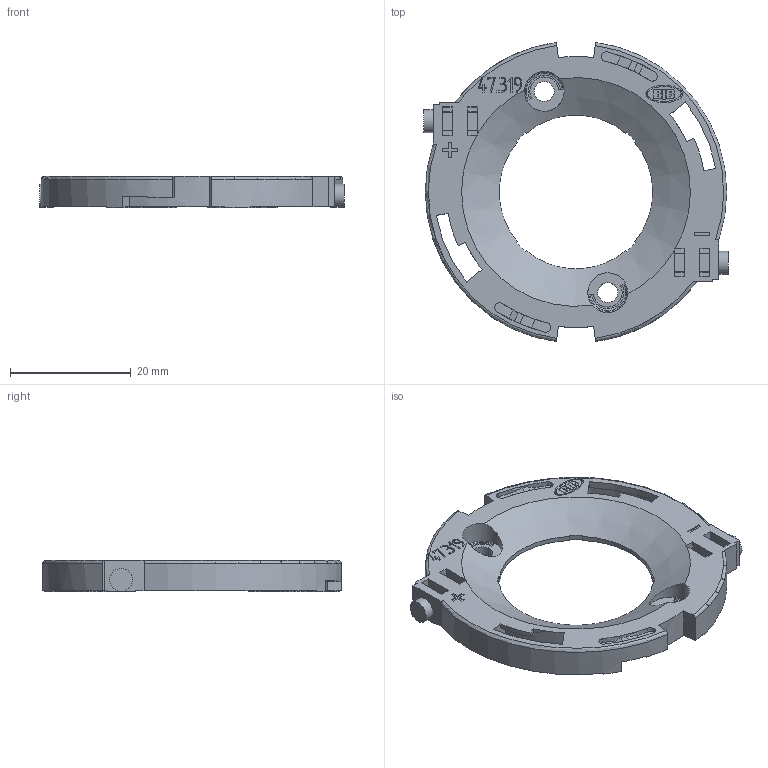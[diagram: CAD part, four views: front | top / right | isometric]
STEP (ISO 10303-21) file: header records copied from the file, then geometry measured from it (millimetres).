
FILE_DESCRIPTION(/* description */ ('Unknown'),/* implementation_level */ '2;1');
FILE_NAME(/* name */ '01T-A0R-09',/* time_stamp */ '2017-10-06T13:56:32+02:00',/* author */ ('Unknown'),/* organization */ ('Unknown'),/* preprocessor_version */ 'ST-DEVELOPER v16.7',/* originating_system */ 'DEX',/* authorisation */ $);
FILE_SCHEMA (('AUTOMOTIVE_DESIGN {1 0 10303 214 3 1 1}'));
Length unit declared in the file: millimetre
Products named in the file (1): 01T-A0R-09
Bounding box: 50.6 x 49.57 x 5.25 mm (x, y, z)
Volume: 3432.2 mm3; surface area: 6104.8 mm2
Topology: 3 solids, 3 shells, 563 faces, 1579 edges, 1047 vertices
Faces by surface type: plane 395, cylinder 106, cone 42, bspline 16, torus 4
Full cylindrical faces by diameter (mm): 0.8 x2, 1.15 x1, 2.5 x1, 3.3 x2, 3.8 x2, 6.6 x2
Entity records: 25149 total; most frequent: CARTESIAN_POINT 6869, ORIENTED_EDGE 3116, DIRECTION 2774, EDGE_CURVE 1558, VERTEX_POINT 1042, LINE 1006, VECTOR 1006, AXIS2_PLACEMENT_3D 884
